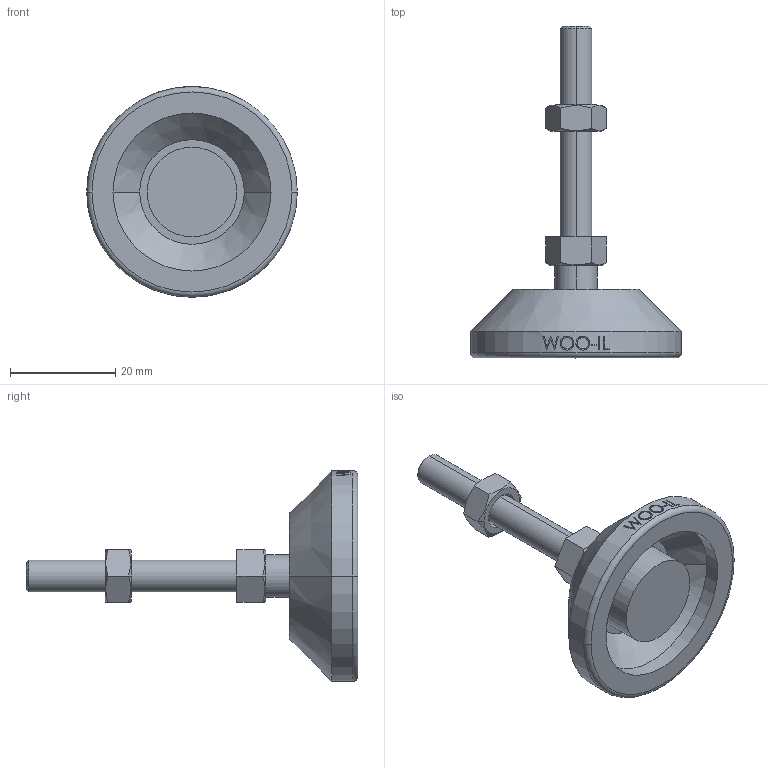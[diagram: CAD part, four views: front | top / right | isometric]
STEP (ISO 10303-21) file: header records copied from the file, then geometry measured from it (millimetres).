
FILE_DESCRIPTION (( 'STEP AP214' ), '1' );
FILE_NAME ('PL40-M6-40.step', '2021-03-05T05:04:21', ( '' ), ( '' ), 'SwSTEP 2.0', 'SolidWorks 2019', '' );
FILE_SCHEMA (( 'AUTOMOTIVE_DESIGN' ));
Length unit declared in the file: millimetre
Products named in the file (2): PL40-M6-40
Bounding box: 40 x 63 x 40 mm (x, y, z)
Volume: 12807 mm3; surface area: 6168 mm2
Topology: 3 solids, 3 shells, 104 faces, 246 edges, 158 vertices
Faces by surface type: plane 48, cylinder 20, cone 16, bspline 16, sphere 2, torus 2
Entity records: 4196 total; most frequent: CARTESIAN_POINT 1882, ORIENTED_EDGE 482, DIRECTION 427, EDGE_CURVE 241, AXIS2_PLACEMENT_3D 162, VERTEX_POINT 155, EDGE_LOOP 118, FACE_OUTER_BOUND 104
